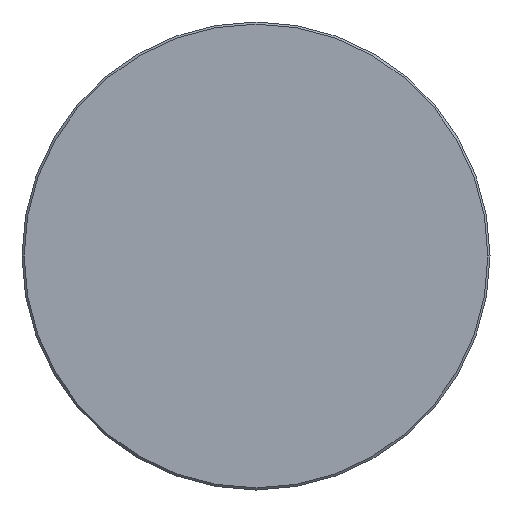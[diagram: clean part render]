
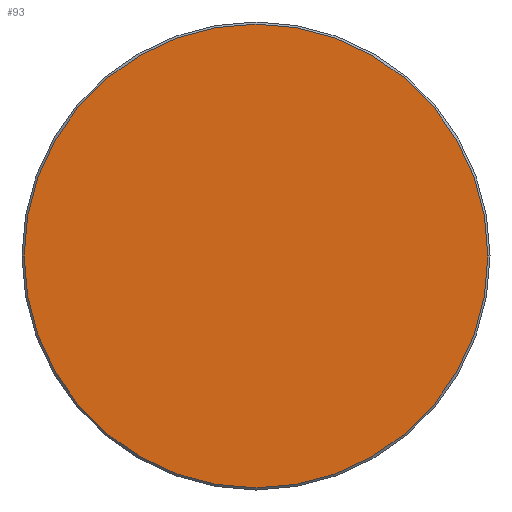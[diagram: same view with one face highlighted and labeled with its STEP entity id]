
A CAD part, left-side view. The second image highlights one B-rep face of the part: STEP entity #93.
In plain terms, the highlighted planar face has unit normal (-1, 0, 0).
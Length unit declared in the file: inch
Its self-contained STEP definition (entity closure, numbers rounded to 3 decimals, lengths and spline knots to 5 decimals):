
#14 = CIRCLE ( 'NONE', #116, 0.4335 ) ;
#51 = DIRECTION ( 'NONE',  ( 0., -1., 0. ) ) ;
#55 = AXIS2_PLACEMENT_3D ( 'NONE', #377, #256, #202 ) ;
#57 = PLANE ( 'NONE',  #190 ) ;
#60 = DIRECTION ( 'NONE',  ( -1., 0., 0. ) ) ;
#73 = EDGE_CURVE ( 'NONE', #188, #329, #14, .T. ) ;
#93 = ADVANCED_FACE ( 'NONE', ( #297 ), #57, .T. ) ;
#102 = CARTESIAN_POINT ( 'NONE',  ( 0., 0., 0. ) ) ;
#104 = ORIENTED_EDGE ( 'NONE', *, *, #73, .T. ) ;
#116 = AXIS2_PLACEMENT_3D ( 'NONE', #102, #220, #51 ) ;
#121 = EDGE_CURVE ( 'NONE', #329, #188, #215, .T. ) ;
#127 = ORIENTED_EDGE ( 'NONE', *, *, #121, .T. ) ;
#163 = CARTESIAN_POINT ( 'NONE',  ( 0., 0.4335, 0. ) ) ;
#170 = DIRECTION ( 'NONE',  ( 0., -1., 0. ) ) ;
#174 = CARTESIAN_POINT ( 'NONE',  ( 0., -0.4335, 0. ) ) ;
#188 = VERTEX_POINT ( 'NONE', #174 ) ;
#190 = AXIS2_PLACEMENT_3D ( 'NONE', #259, #60, #170 ) ;
#202 = DIRECTION ( 'NONE',  ( 0., -1., 0. ) ) ;
#215 = CIRCLE ( 'NONE', #55, 0.4335 ) ;
#220 = DIRECTION ( 'NONE',  ( -1., 0., 0. ) ) ;
#256 = DIRECTION ( 'NONE',  ( -1., 0., 0. ) ) ;
#259 = CARTESIAN_POINT ( 'NONE',  ( 0., 0., 0. ) ) ;
#297 = FACE_OUTER_BOUND ( 'NONE', #358, .T. ) ;
#329 = VERTEX_POINT ( 'NONE', #163 ) ;
#358 = EDGE_LOOP ( 'NONE', ( #127, #104 ) ) ;
#377 = CARTESIAN_POINT ( 'NONE',  ( 0., 0., 0. ) ) ;
